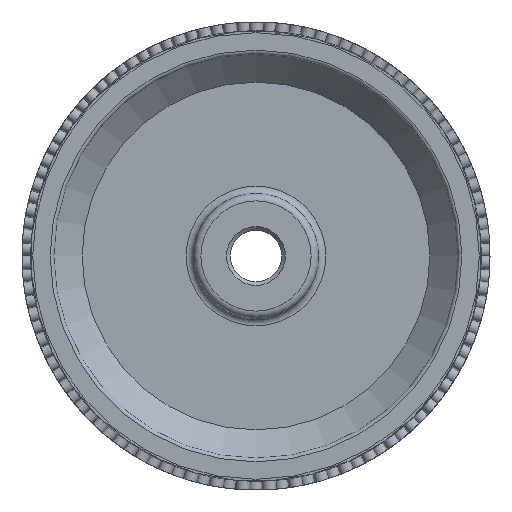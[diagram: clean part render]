
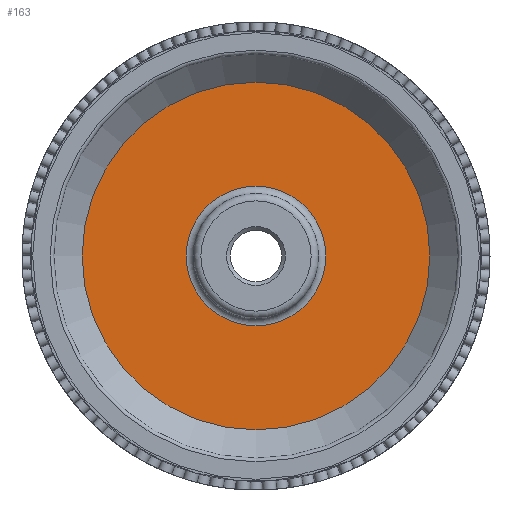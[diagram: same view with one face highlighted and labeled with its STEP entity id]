
A CAD part, front view. The second image highlights one B-rep face of the part: STEP entity #163.
In plain terms, the highlighted planar face has unit normal (0, -1, 0).
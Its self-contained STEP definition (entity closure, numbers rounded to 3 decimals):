
#163 = ADVANCED_FACE( '', ( #695, #696 ), #697, .F. );
#695 = FACE_BOUND( '', #2177, .T. );
#696 = FACE_OUTER_BOUND( '', #2178, .T. );
#697 = PLANE( '', #2179 );
#2177 = EDGE_LOOP( '', ( #3698 ) );
#2178 = EDGE_LOOP( '', ( #3699 ) );
#2179 = AXIS2_PLACEMENT_3D( '', #3700, #3701, #3702 );
#3698 = ORIENTED_EDGE( '', *, *, #6049, .T. );
#3699 = ORIENTED_EDGE( '', *, *, #6054, .T. );
#3700 = CARTESIAN_POINT( '', ( 0., 5.35, 23.65 ) );
#3701 = DIRECTION( '', ( 0., 1., 0. ) );
#3702 = DIRECTION( '', ( 0., 0., 1. ) );
#6049 = EDGE_CURVE( '', #6580, #6580, #6581, .T. );
#6054 = EDGE_CURVE( '', #6590, #6590, #6591, .T. );
#6580 = VERTEX_POINT( '', #7711 );
#6581 = CIRCLE( '', #7712, 9.5 );
#6590 = VERTEX_POINT( '', #7721 );
#6591 = CIRCLE( '', #7722, 23.65 );
#7711 = CARTESIAN_POINT( '', ( 0., 5.35, 9.5 ) );
#7712 = AXIS2_PLACEMENT_3D( '', #22346, #22347, #22348 );
#7721 = CARTESIAN_POINT( '', ( 0., 5.35, -23.65 ) );
#7722 = AXIS2_PLACEMENT_3D( '', #22361, #22362, #22363 );
#22346 = CARTESIAN_POINT( '', ( 0., 5.35, 0. ) );
#22347 = DIRECTION( '', ( 0., 1., 0. ) );
#22348 = DIRECTION( '', ( 0., 0., 1. ) );
#22361 = CARTESIAN_POINT( '', ( 0., 5.35, 0. ) );
#22362 = DIRECTION( '', ( 0., -1., 0. ) );
#22363 = DIRECTION( '', ( 0., 0., -1. ) );
